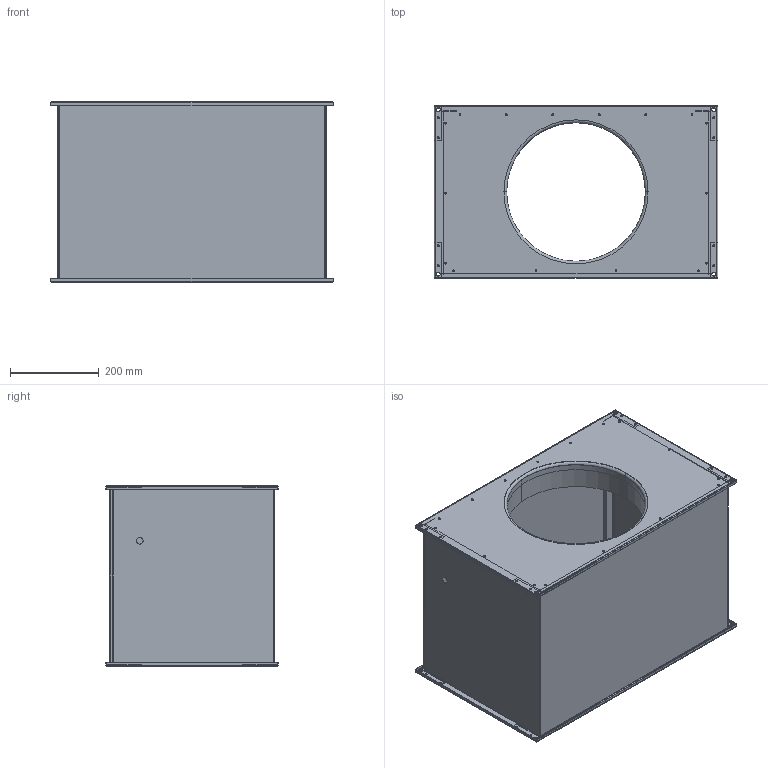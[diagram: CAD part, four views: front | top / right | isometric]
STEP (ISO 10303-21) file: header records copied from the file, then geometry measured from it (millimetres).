
FILE_DESCRIPTION (( 'STEP AP203' ), '1' );
FILE_NAME ('127736-00_ELKI6035E210.STEP', '2013-09-25T08:22:17', ( '' ), ( '' ), 'SwSTEP 2.0', 'SolidWorks 2012', '' );
FILE_SCHEMA (( 'CONFIG_CONTROL_DESIGN' ));
Length unit declared in the file: millimetre
Products named in the file (1): 127736-00_ELKI6035E210
Bounding box: 638 x 388 x 405 mm (x, y, z)
Surface area: 2527944.8 mm2 (no closed solid volume)
Topology: 0 solids, 66 shells, 391 faces, 1312 edges, 961 vertices
Faces by surface type: cylinder 255, plane 132, torus 4
Entity records: 15235 total; most frequent: CARTESIAN_POINT 3221, DIRECTION 2709, ORIENTED_EDGE 1972, EDGE_CURVE 1312, AXIS2_PLACEMENT_3D 1053, VERTEX_POINT 961, CIRCLE 661, LINE 603
